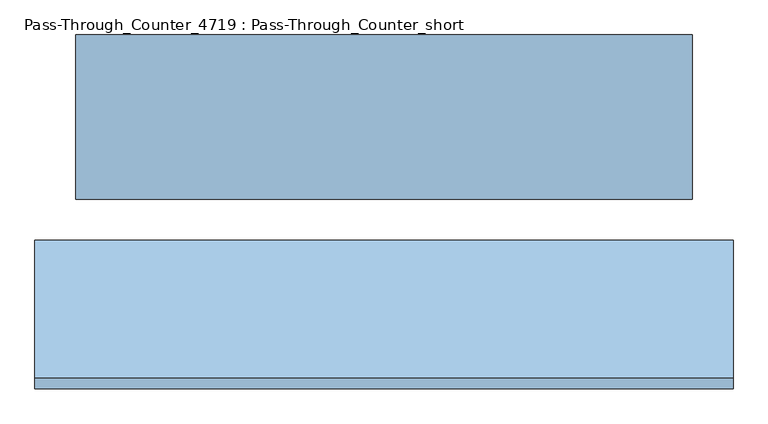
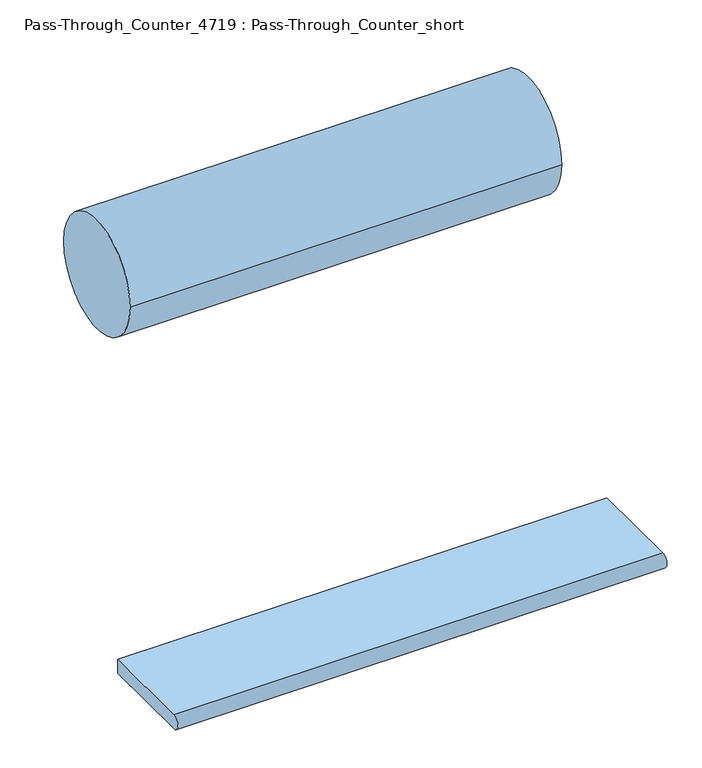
"""IFC4 building model written with IfcOpenShell, lengths in millimetres: window geometry, Pass-Through_Counter_4719 : Pass-Through_Counter_short."""

from ifc_helpers import new_model, si_unit, point, frame, frame_2d, origin, place, context, project, spatial, polyline, circle_curve, trimmed, segment, composite_curve, outline, extrude, source, transform, mapped, element, save


def pass_through_counter_4719_pass_through_counter_short_b2f492ed(model_context):
    return source(origin(), model_context, "Body", "SweptSolid", [
        extrude(outline(composite_curve([segment(polyline([(-381.0, 914.4), (-39.6875, 914.4), (-39.6875, 863.6), (-381.0, 863.6)]), True, "CONTINUOUS"), segment(trimmed(circle_curve(frame_2d((-381.0, 889.0)), 25.4), [point((-381.0, 863.6))], [point((-381.0, 914.4))], False, "CARTESIAN"), True, "CONTINUOUS")], self_intersect=False)), frame((-863.6, 0.0, 0.0), z_axis=(1.0, 0.0, 0.0), x_axis=(0.0, 1.0, 0.0)), (0.0, 0.0, 1.0), 1727.2),
        extrude(outline(composite_curve([segment(trimmed(circle_curve(frame_2d((265.1125, 2133.6)), 203.2), [point((61.9125, 2133.6))], [point((468.3125, 2133.6))], False, "CARTESIAN"), True, "CONTINUOUS"), segment(trimmed(circle_curve(frame_2d((265.1125, 2133.6)), 203.2), [point((468.3125, 2133.6))], [point((61.9125, 2133.6))], False, "CARTESIAN"), True, "CONTINUOUS")], self_intersect=False)), frame((-762.0, 0.0, 0.0), z_axis=(1.0, 0.0, 0.0), x_axis=(0.0, 1.0, 0.0)), (0.0, 0.0, 1.0), 1524.0),
    ])


if __name__ == "__main__":
    model = new_model("IFC4")
    model_context = context("Model", 3, world=origin())
    ifc_project = project(units=[si_unit("LENGTHUNIT", "METRE", prefix="MILLI")], contexts=[model_context])
    site = spatial("IfcSite", under=ifc_project)
    building = spatial("IfcBuilding", under=site)
    placement = place(None, origin())
    pass_through_counter_4719_pass_through_counter_short_shape = pass_through_counter_4719_pass_through_counter_short_b2f492ed(model_context)
    element("IfcWindow", 1, ObjectType="Pass-Through_Counter_4719 : Pass-Through_Counter_short", at=placement, inside=building, context=model_context, shape_type="MappedRepresentation", body=[
        mapped(pass_through_counter_4719_pass_through_counter_short_shape, transform((0.0, 0.0, 0.0), x_axis=(1.0, 0.0, 0.0), y_axis=(0.0, 1.0, 0.0), z_axis=(0.0, 0.0, 1.0))),
    ])
    save(model, "model.ifc")
